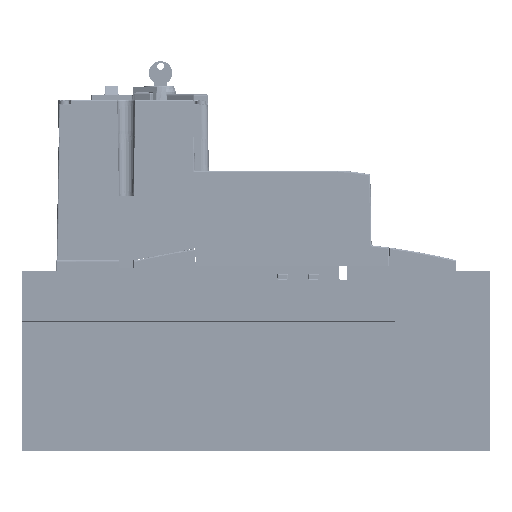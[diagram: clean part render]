
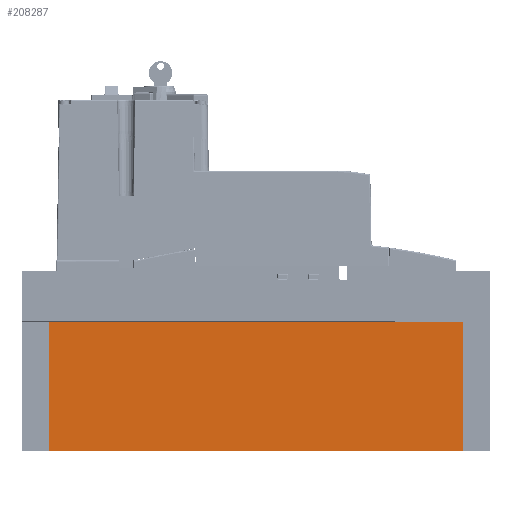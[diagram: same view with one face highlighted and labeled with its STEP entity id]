
A CAD part, left-side view. The second image highlights one B-rep face of the part: STEP entity #208287.
In plain terms, the highlighted planar face has unit normal (-1, 0, 0).
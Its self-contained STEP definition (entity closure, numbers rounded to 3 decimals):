
#596 = LINE ( 'NONE', #718, #716 ) ;
#715 = DIRECTION ( 'NONE',  ( 0., 0., -1. ) ) ;
#716 = VECTOR ( 'NONE', #715, 1000. ) ;
#718 = CARTESIAN_POINT ( 'NONE',  ( -185.989, 138.477, 59.794 ) ) ;
#767 = FACE_OUTER_BOUND ( 'NONE', #208292, .T. ) ;
#883 = DIRECTION ( 'NONE',  ( 0., 0., -1. ) ) ;
#885 = DIRECTION ( 'NONE',  ( 1., 0., 0. ) ) ;
#888 = CARTESIAN_POINT ( 'NONE',  ( -185.989, -171.523, 59.794 ) ) ;
#889 = AXIS2_PLACEMENT_3D ( 'NONE', #888, #885, #883 ) ;
#892 = PLANE ( 'NONE',  #889 ) ;
#1000 = DIRECTION ( 'NONE',  ( 0., 0., -1. ) ) ;
#1002 = VECTOR ( 'NONE', #1000, 1000. ) ;
#1004 = CARTESIAN_POINT ( 'NONE',  ( -185.989, -171.523, 59.794 ) ) ;
#1007 = LINE ( 'NONE', #1004, #1002 ) ;
#61154 = CARTESIAN_POINT ( 'NONE',  ( -185.989, -171.523, 59.794 ) ) ;
#61157 = CARTESIAN_POINT ( 'NONE',  ( -185.989, 138.477, 59.794 ) ) ;
#65962 = DIRECTION ( 'NONE',  ( 0., -1., 0. ) ) ;
#65964 = VECTOR ( 'NONE', #65962, 1000. ) ;
#65969 = CARTESIAN_POINT ( 'NONE',  ( -185.989, -171.523, 59.794 ) ) ;
#65971 = LINE ( 'NONE', #65969, #65964 ) ;
#201779 = VERTEX_POINT ( 'NONE', #302152 ) ;
#201787 = EDGE_CURVE ( 'NONE', #201793, #201779, #302131, .T. ) ;
#201793 = VERTEX_POINT ( 'NONE', #302103 ) ;
#202789 = VERTEX_POINT ( 'NONE', #61157 ) ;
#202794 = VERTEX_POINT ( 'NONE', #61154 ) ;
#203454 = EDGE_CURVE ( 'NONE', #202789, #202794, #65971, .T. ) ;
#208267 = EDGE_CURVE ( 'NONE', #202789, #201793, #596, .T. ) ;
#208287 = ADVANCED_FACE ( 'NONE', ( #767 ), #892, .F. ) ;
#208292 = EDGE_LOOP ( 'NONE', ( #208320, #208340, #208354, #208596 ) ) ;
#208320 = ORIENTED_EDGE ( 'NONE', *, *, #208267, .T. ) ;
#208340 = ORIENTED_EDGE ( 'NONE', *, *, #201787, .T. ) ;
#208354 = ORIENTED_EDGE ( 'NONE', *, *, #208363, .F. ) ;
#208363 = EDGE_CURVE ( 'NONE', #202794, #201779, #1007, .T. ) ;
#208596 = ORIENTED_EDGE ( 'NONE', *, *, #203454, .F. ) ;
#302103 = CARTESIAN_POINT ( 'NONE',  ( -185.989, 138.477, -36.706 ) ) ;
#302125 = DIRECTION ( 'NONE',  ( 0., -1., 0. ) ) ;
#302127 = VECTOR ( 'NONE', #302125, 1000. ) ;
#302129 = CARTESIAN_POINT ( 'NONE',  ( -185.989, -171.523, -36.706 ) ) ;
#302131 = LINE ( 'NONE', #302129, #302127 ) ;
#302152 = CARTESIAN_POINT ( 'NONE',  ( -185.989, -171.523, -36.706 ) ) ;
